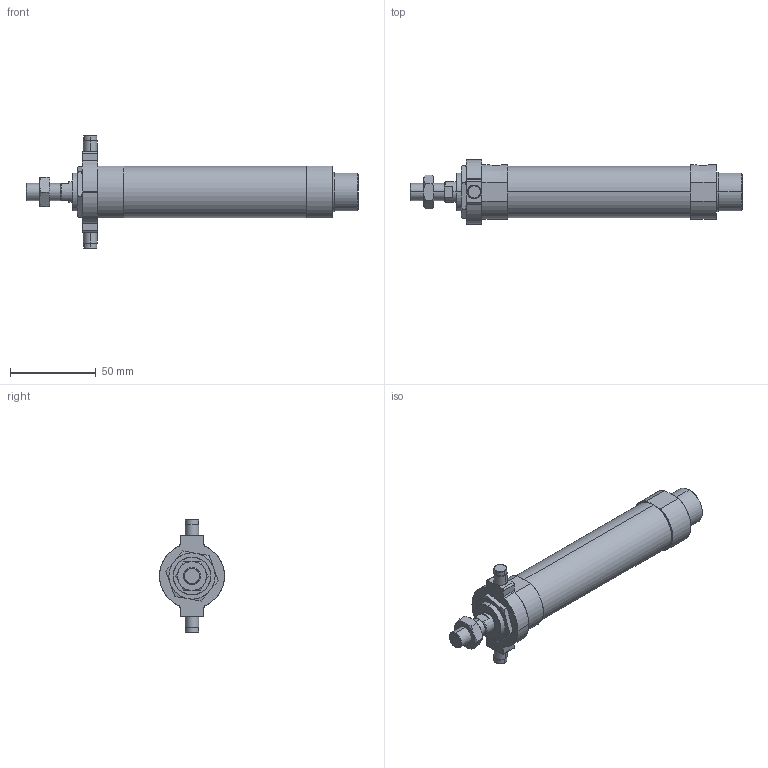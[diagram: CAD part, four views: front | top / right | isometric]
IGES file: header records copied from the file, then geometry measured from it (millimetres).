
Start section: SolidWorks IGES file using analytic representation for surfaces
Global section: file name: C:\Users\Toshiba\Desktop\J#2-25-75-T.IGS; native system: SolidWorks 2014; preprocessor: SolidWorks 2014; author: Toshiba; date: 160308.151406; units: millimetre
Bounding box: 194 x 38 x 66 mm (x, y, z)
Surface area: 25018 mm2 (no closed solid volume)
Topology: 0 solids, 0 shells, 136 faces, 2248 edges, 2244 vertices
Faces by surface type: bspline 71, revolution 65
